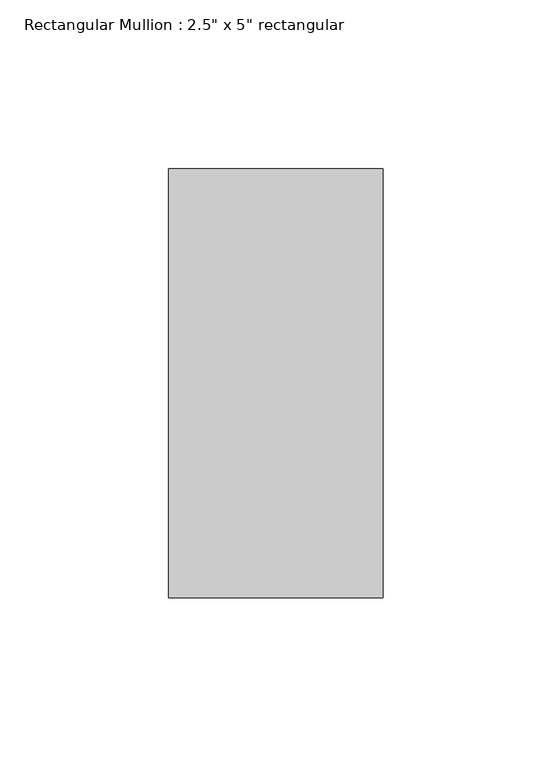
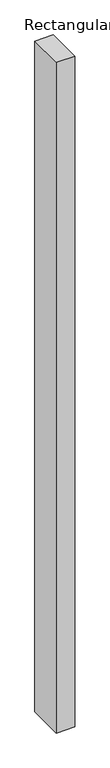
"""IFC4 building model written with IfcOpenShell, lengths in millimetres: member geometry."""

from ifc_helpers import new_model, si_unit, frame, origin, place, context, project, spatial, polyline, outline, extrude, source, transform, mapped, element, save


def member_65a3e7b2(model_context):
    return source(origin(), model_context, "Body", "SweptSolid", [
        extrude(outline(polyline([(0.0, 63.5), (0.0, -63.5), (-63.5, -63.5), (-63.5, 63.5), (0.0, 63.5)])), frame((0.0, 0.0, -2444.7500002), z_axis=(0.0, 0.0, 1.0), x_axis=(1.0, 0.0, 0.0)), (0.0, 0.0, 1.0), 2444.7500002),
    ])


if __name__ == "__main__":
    model = new_model("IFC4")
    model_context = context("Model", 3, world=origin())
    ifc_project = project(units=[si_unit("LENGTHUNIT", "METRE", prefix="MILLI")], contexts=[model_context])
    site = spatial("IfcSite", under=ifc_project)
    building = spatial("IfcBuilding", under=site)
    placement = place(None, origin())
    member_shape = member_65a3e7b2(model_context)
    element("IfcMember", 1, ObjectType="Rectangular Mullion : 2.5\" x 5\" rectangular", at=placement, inside=building, context=model_context, shape_type="MappedRepresentation", body=[
        mapped(member_shape, transform((0.0, 0.0, 0.0), x_axis=(1.0, 0.0, 0.0), y_axis=(0.0, 1.0, 0.0), z_axis=(0.0, 0.0, 1.0))),
    ])
    save(model, "model.ifc")
